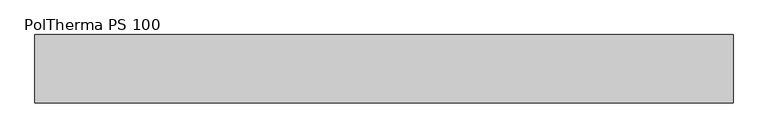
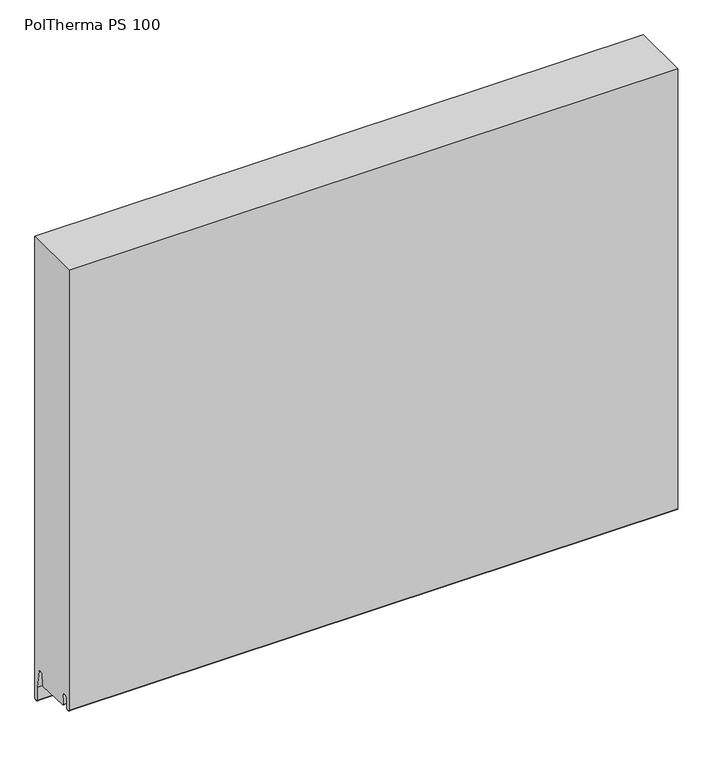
"""IFC4 building model written with IfcOpenShell, lengths in millimetres: plate geometry, Europanels_Poltherma PS_Hz : PolTherma PS 100."""

from ifc_helpers import new_model, si_unit, frame, origin, place, context, project, spatial, polyline, circle_curve, source, transform, mapped, element, save
from ifc_brep_helpers import plane_surface, cylinder_surface, revolved_surface, advanced_brep


def poltherma_ps_100_7ae31273(model_context):
    return source(origin(), model_context, "Body", "AdvancedBrep", [
        advanced_brep(
        [(512.5, 50.0, 3.6911192), (512.5, 50.0, 825.0), (512.5, -50.0, 825.0), (512.5, -50.0, 41.7345224), (512.5, -47.9973085, 39.7345224), (512.5, -45.27015, 39.7345224), (512.5, -43.2805625, 41.5307044), (512.5, -42.306057, 59.5434261), (512.5, -39.3216758, 62.2376991), (512.5, -36.3730069, 62.2376991), (512.5, -33.3900718, 59.5572268), (512.5, -32.337447, 41.2981312), (512.5, -30.5974015, 39.7345224), (512.5, 25.3314364, 38.2345224), (512.5, 27.6798185, 40.4973354), (512.5, 28.3397973, 58.2738665), (512.5, 30.9832499, 60.7376991), (512.5, 34.3675437, 60.7376991), (512.5, 36.9690493, 58.5923462), (512.5, 43.3, 25.9556669), (512.5, 43.3, 3.2773261), (512.5, 45.8152999, 1.1585869), (512.5, 48.2152999, 1.57238), (-512.5, 50.0, 3.6911192), (-512.5, 48.2152999, 1.57238), (-512.5, 45.8152999, 1.1585869), (-512.5, 43.3, 3.2773261), (-512.5, 43.3, 25.9556669), (-512.5, 36.9690493, 58.5923462), (-512.5, 34.3675437, 60.7376991), (-512.5, 30.9832499, 60.7376991), (-512.5, 28.3397973, 58.2738665), (-512.5, 27.6798185, 40.4973354), (-512.5, 25.3314364, 38.2345224), (-512.5, -30.5974015, 39.7345224), (-512.5, -32.337447, 41.2981312), (-512.5, -33.3900718, 59.5572268), (-512.5, -36.3730069, 62.2376991), (-512.5, -39.3216758, 62.2376991), (-512.5, -42.306057, 59.5434261), (-512.5, -43.2805625, 41.5307044), (-512.5, -45.27015, 39.7345224), (-512.5, -47.9973085, 39.7345224), (-512.5, -49.9973085, 41.7345224), (-512.5, -50.0, 825.0), (-512.5, 50.0, 825.0)],
        [
            (0, 1),
            (1, 2),
            (2, 3),
            (3, 4, circle_curve(frame((512.5, -47.9973085, 41.7345224), z_axis=(1.0, 0.0, 0.0), x_axis=(0.0, 1.0, 0.0)), 2.0)),
            (4, 5),
            (5, 6, circle_curve(frame((512.5, -45.27015, 41.7345224), z_axis=(1.0, 0.0, 0.0), x_axis=(0.0, 1.0, 0.0)), 2.0)),
            (6, 7),
            (7, 8, circle_curve(frame((512.5, -39.3216758, 59.2376991), z_axis=(-1.0, 0.0, 0.0), x_axis=(0.0, 1.0, 0.0)), 3.0)),
            (8, 9),
            (9, 10, circle_curve(frame((512.5, -36.3730069, 59.2376991), z_axis=(-1.0, 0.0, 0.0), x_axis=(0.0, 1.0, 0.0)), 3.0)),
            (10, 11),
            (11, 12, circle_curve(frame((512.5, -30.5974015, 41.4845224), z_axis=(1.0, 0.0, 0.0), x_axis=(0.0, 1.0, 0.0)), 1.75)),
            (12, 13),
            (13, 14, circle_curve(frame((512.5, 25.3314364, 40.5845224), z_axis=(1.0, 0.0, 0.0), x_axis=(0.0, 1.0, 0.0)), 2.35)),
            (14, 15),
            (15, 16, circle_curve(frame((512.5, 30.9832499, 58.0876991), z_axis=(-1.0, 0.0, 0.0), x_axis=(0.0, 1.0, 0.0)), 2.65)),
            (16, 17),
            (17, 18, circle_curve(frame((512.5, 34.3675437, 58.0876991), z_axis=(-1.0, 0.0, 0.0), x_axis=(0.0, 1.0, 0.0)), 2.65)),
            (18, 19),
            (19, 20),
            (20, 21, circle_curve(frame((512.5, 45.45, 3.2773261), z_axis=(1.0, 0.0, 0.0), x_axis=(0.0, 1.0, 0.0)), 2.15)),
            (21, 22),
            (22, 0, circle_curve(frame((512.5, 47.85, 3.6911192), z_axis=(1.0, 0.0, 0.0), x_axis=(0.0, 1.0, 0.0)), 2.15)),
            (23, 24, circle_curve(frame((-512.5, 47.85, 3.6911192), z_axis=(-1.0, 0.0, 0.0), x_axis=(0.0, 1.0, 0.0)), 2.15)),
            (24, 25),
            (25, 26, circle_curve(frame((-512.5, 45.45, 3.2773261), z_axis=(-1.0, 0.0, 0.0), x_axis=(0.0, 1.0, 0.0)), 2.15)),
            (26, 27),
            (27, 28),
            (28, 29, circle_curve(frame((-512.5, 34.3675437, 58.0876991), z_axis=(1.0, 0.0, 0.0), x_axis=(0.0, 1.0, 0.0)), 2.65)),
            (29, 30),
            (30, 31, circle_curve(frame((-512.5, 30.9832499, 58.0876991), z_axis=(1.0, 0.0, 0.0), x_axis=(0.0, 1.0, 0.0)), 2.65)),
            (31, 32),
            (32, 33, circle_curve(frame((-512.5, 25.3314364, 40.5845224), z_axis=(-1.0, 0.0, 0.0), x_axis=(0.0, 1.0, 0.0)), 2.35)),
            (33, 34),
            (34, 35, circle_curve(frame((-512.5, -30.5974015, 41.4845224), z_axis=(-1.0, 0.0, 0.0), x_axis=(0.0, 1.0, 0.0)), 1.75)),
            (35, 36),
            (36, 37, circle_curve(frame((-512.5, -36.3730069, 59.2376991), z_axis=(1.0, 0.0, 0.0), x_axis=(0.0, 1.0, 0.0)), 3.0)),
            (37, 38),
            (38, 39, circle_curve(frame((-512.5, -39.3216758, 59.2376991), z_axis=(1.0, 0.0, 0.0), x_axis=(0.0, 1.0, 0.0)), 3.0)),
            (39, 40),
            (40, 41, circle_curve(frame((-512.5, -45.27015, 41.7345224), z_axis=(-1.0, 0.0, 0.0), x_axis=(0.0, 1.0, 0.0)), 2.0)),
            (41, 42),
            (42, 43, circle_curve(frame((-512.5, -47.9973085, 41.7345224), z_axis=(-1.0, 0.0, 0.0), x_axis=(0.0, 1.0, 0.0)), 2.0)),
            (43, 44),
            (44, 45),
            (45, 23),
            (0, 23),
            (45, 1),
            (2, 44),
            (43, 3),
            (42, 4),
            (41, 5),
            (40, 6),
            (39, 7),
            (38, 8),
            (37, 9),
            (36, 10),
            (35, 11),
            (34, 12),
            (33, 13),
            (32, 14),
            (31, 15),
            (30, 16),
            (29, 17),
            (28, 18),
            (27, 19),
            (26, 20),
            (25, 21),
            (24, 22),
        ],
        [
            plane_surface(frame((512.5, 50.0, 825.0), z_axis=(1.0, 0.0, 0.0), x_axis=(0.0, 0.0, 1.0))),
            plane_surface(frame((-512.5, 50.0, 825.0), z_axis=(-1.0, 0.0, 0.0), x_axis=(0.0, 0.0, -1.0))),
            plane_surface(frame((512.5, 50.0, 3.6911192), z_axis=(0.0, 1.0, 0.0), x_axis=(-1.0, 0.0, 0.0))),
            plane_surface(frame((512.5, -50.0, 825.0), z_axis=(0.0, -1.0, 0.0), x_axis=(-1.0, 0.0, 0.0))),
            cylinder_surface(frame((-512.5, -47.9973085, 41.7345224), z_axis=(1.0, 0.0, 0.0), x_axis=(0.0, 1.0, 0.0)), 2.0),
            plane_surface(frame((512.5, -47.9973085, 39.7345224), z_axis=(0.0, 0.0, -1.0), x_axis=(-1.0, 0.0, 0.0))),
            cylinder_surface(frame((-512.5, -45.27015, 41.7345224), z_axis=(1.0, 0.0, 0.0), x_axis=(0.0, 1.0, 0.0)), 2.0),
            plane_surface(frame((512.5, -43.2805625, 41.5307044), z_axis=(0.0, 0.9985397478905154, -0.05402195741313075), x_axis=(-1.0, 0.0, 0.0))),
            revolved_surface(polyline([(-512.5, -36.3216758, 59.2376991), (512.5, -36.3216758, 59.2376991)]), (-512.5, -39.3216758, 59.2376991), (-1.0, 0.0, 0.0)),
            plane_surface(frame((512.5, -39.3216758, 62.2376991), z_axis=(0.0, 0.0, -1.0), x_axis=(-1.0, 0.0, 0.0))),
            revolved_surface(polyline([(-512.5, -33.3730069, 59.2376991), (512.5, -33.3730069, 59.2376991)]), (-512.5, -36.3730069, 59.2376991), (-1.0, 0.0, 0.0)),
            plane_surface(frame((512.5, -33.3900718, 59.5572268), z_axis=(0.0, -0.9983424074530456, -0.05755377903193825), x_axis=(-1.0, 0.0, 0.0))),
            cylinder_surface(frame((-512.5, -30.5974015, 41.4845224), z_axis=(1.0, 0.0, 0.0), x_axis=(0.0, 1.0, 0.0)), 1.75),
            plane_surface(frame((512.5, -30.5974015, 39.7345224), z_axis=(0.0, -0.026810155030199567, -0.999640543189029), x_axis=(-1.0, 0.0, 0.0))),
            cylinder_surface(frame((-512.5, 25.3314364, 40.5845224), z_axis=(1.0, 0.0, 0.0), x_axis=(0.0, 1.0, 0.0)), 2.35),
            plane_surface(frame((512.5, 27.6798185, 40.4973354), z_axis=(0.0, 0.9993115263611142, -0.03710085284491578), x_axis=(-1.0, 0.0, 0.0))),
            revolved_surface(polyline([(-512.5, 33.6332499, 58.0876991), (512.5, 33.6332499, 58.0876991)]), (-512.5, 30.9832499, 58.0876991), (-1.0, 0.0, 0.0)),
            plane_surface(frame((512.5, 30.9832499, 60.7376991), z_axis=(0.0, -2.2622766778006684e-12, -1.0), x_axis=(-1.0, 0.0, 0.0))),
            revolved_surface(polyline([(-512.5, 37.0175437, 58.0876991), (512.5, 37.0175437, 58.0876991)]), (-512.5, 34.3675437, 58.0876991), (-1.0, 0.0, 0.0)),
            plane_surface(frame((512.5, 36.9690493, 58.5923462), z_axis=(0.0, -0.9817002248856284, -0.19043284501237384), x_axis=(-1.0, 0.0, 0.0))),
            plane_surface(frame((512.5, 43.3, 25.9556669), z_axis=(0.0, -1.0, 0.0), x_axis=(-1.0, 0.0, 0.0))),
            cylinder_surface(frame((-512.5, 45.45, 3.2773261), z_axis=(1.0, 0.0, 0.0), x_axis=(0.0, 1.0, 0.0)), 2.15),
            plane_surface(frame((512.5, 45.8152999, 1.1585869), z_axis=(0.0, 0.16990691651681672, -0.9854601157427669), x_axis=(-1.0, 0.0, 0.0))),
            cylinder_surface(frame((-512.5, 47.85, 3.6911192), z_axis=(1.0, 0.0, 0.0), x_axis=(0.0, 1.0, 0.0)), 2.15),
            plane_surface(frame((512.5, 50.0, 825.0), z_axis=(0.0, 0.0, 1.0), x_axis=(-1.0, 0.0, 0.0))),
        ],
        [
            (0, [[1, 2, 3, 4, 5, 6, 7, 8, 9, 10, 11, 12, 13, 14, 15, 16, 17, 18, 19, 20, 21, 22, 23]]),
            (1, [[24, 25, 26, 27, 28, 29, 30, 31, 32, 33, 34, 35, 36, 37, 38, 39, 40, 41, 42, 43, 44, 45, 46]]),
            (2, [[-1, 47, -46, 48]]),
            (3, [[-3, 49, -44, 50]]),
            (4, [[-4, -50, -43, 51]]),
            (5, [[-5, -51, -42, 52]]),
            (6, [[-6, -52, -41, 53]]),
            (7, [[-7, -53, -40, 54]]),
            (8, [[-8, -54, -39, 55]]),
            (9, [[-9, -55, -38, 56]]),
            (10, [[-10, -56, -37, 57]]),
            (11, [[-11, -57, -36, 58]]),
            (12, [[-12, -58, -35, 59]]),
            (13, [[-13, -59, -34, 60]]),
            (14, [[-14, -60, -33, 61]]),
            (15, [[-15, -61, -32, 62]]),
            (16, [[-16, -62, -31, 63]]),
            (17, [[-17, -63, -30, 64]]),
            (18, [[-18, -64, -29, 65]]),
            (19, [[-19, -65, -28, 66]]),
            (20, [[-20, -66, -27, 67]]),
            (21, [[-21, -67, -26, 68]]),
            (22, [[-22, -68, -25, 69]]),
            (23, [[-23, -69, -24, -47]]),
            (24, [[-2, -48, -45, -49]]),
        ],
    ),
    ])


if __name__ == "__main__":
    model = new_model("IFC4")
    model_context = context("Model", 3, world=origin())
    ifc_project = project(units=[si_unit("LENGTHUNIT", "METRE", prefix="MILLI")], contexts=[model_context])
    site = spatial("IfcSite", under=ifc_project)
    building = spatial("IfcBuilding", under=site)
    placement = place(None, origin())
    poltherma_ps_100_shape = poltherma_ps_100_7ae31273(model_context)
    element("IfcPlate", 1, ObjectType="Europanels_Poltherma PS_Hz : PolTherma PS 100", at=placement, inside=building, context=model_context, shape_type="MappedRepresentation", body=[
        mapped(poltherma_ps_100_shape, transform((0.0, 0.0, 0.0), x_axis=(1.0, 0.0, 0.0), y_axis=(0.0, 1.0, 0.0), z_axis=(0.0, 0.0, 1.0))),
    ])
    save(model, "model.ifc")
